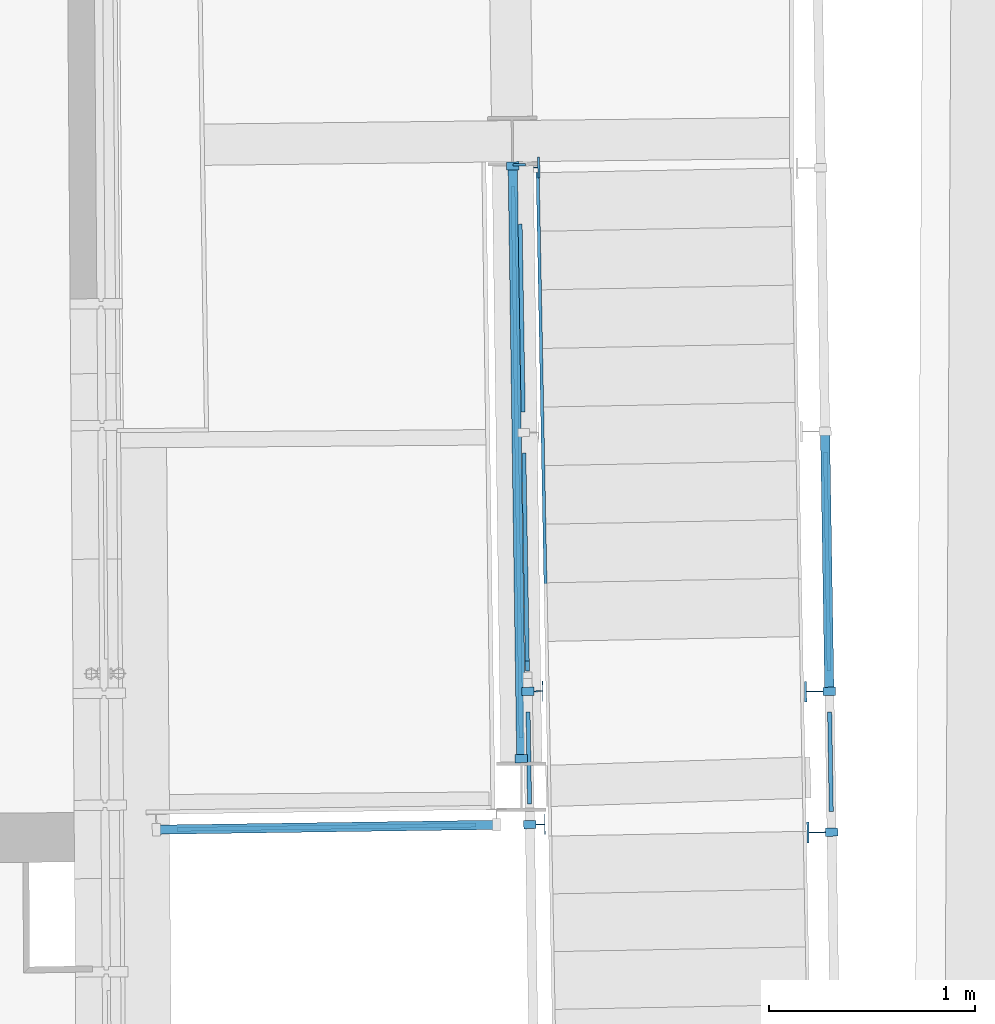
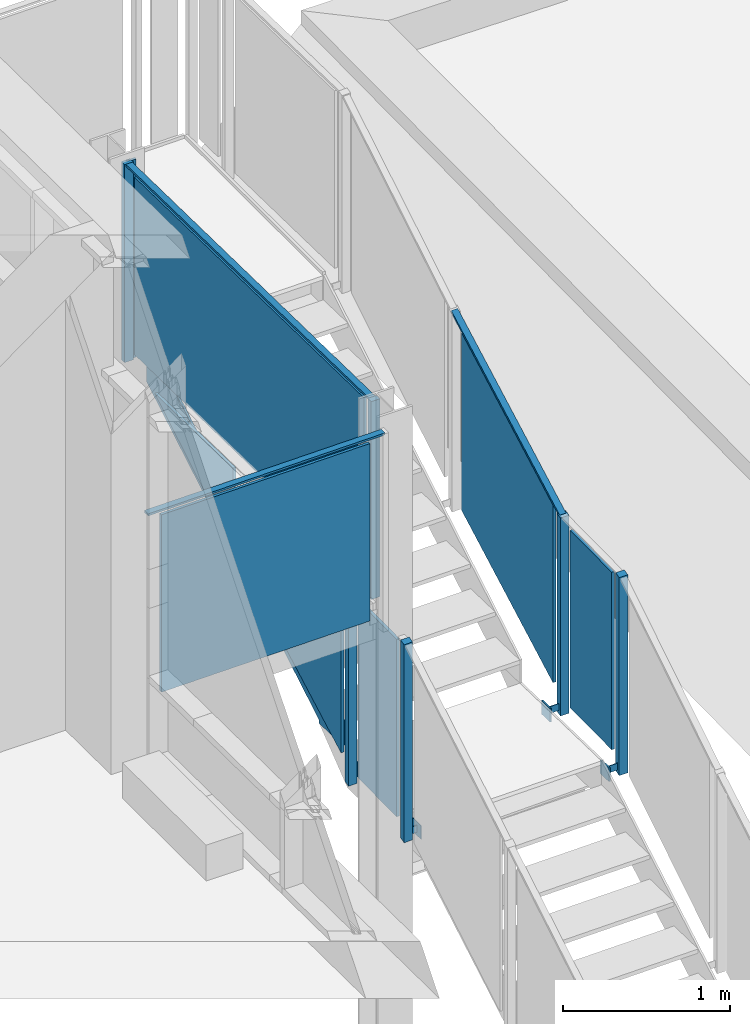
# One storey, part 108 of 158: 18 building element parts, 5 elements without a shape of their own.
"""IFC2X3 building model written with IfcOpenShell, lengths in metres."""

from ifc_helpers import new_model, entity, si_unit, converted_unit, derived_unit, money_unit, direction, frame, origin_with_axes, place, context, subcontext, project, spatial, faceted_brep, material, type_object, element, aggregate, save


model = new_model("IFC2X3")

# Units and contexts
model_context = context("Model", 3, precision=1e-05, world=origin_with_axes(), true_north=direction((0.0, 1.0)))
body_context = subcontext(model_context, "Body", "Model", "MODEL_VIEW")
ifc_project = project(units=[si_unit("LENGTHUNIT", "METRE"), si_unit("AREAUNIT", "SQUARE_METRE"), si_unit("VOLUMEUNIT", "CUBIC_METRE"), converted_unit("PLANEANGLEUNIT", "DEGREE", entity("IfcPlaneAngleMeasure", 0.0174532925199), si_unit("PLANEANGLEUNIT", "RADIAN"), dimensions=[0, 0, 0, 0, 0, 0, 0]), money_unit("EUR"), converted_unit("TIMEUNIT", "Year", entity("IfcTimeMeasure", 31556926.0), si_unit("TIMEUNIT", "SECOND"), dimensions=[0, 0, 1, 0, 0, 0, 0]), si_unit("MASSUNIT", "GRAM", prefix="KILO"), si_unit("THERMODYNAMICTEMPERATUREUNIT", "DEGREE_CELSIUS"), si_unit("LUMINOUSINTENSITYUNIT", "LUMEN"), si_unit("ENERGYUNIT", "JOULE", prefix="MEGA"), derived_unit("THERMALCONDUCTANCEUNIT", [(si_unit("POWERUNIT", "WATT"), 1), (si_unit("LENGTHUNIT", "METRE"), -1), (si_unit("THERMODYNAMICTEMPERATUREUNIT", "KELVIN"), -1)]), derived_unit("SPECIFICHEATCAPACITYUNIT", [(si_unit("ENERGYUNIT", "JOULE"), 1), (si_unit("MASSUNIT", "GRAM", prefix="KILO"), -1), (si_unit("THERMODYNAMICTEMPERATUREUNIT", "KELVIN"), -1)]), derived_unit("MASSDENSITYUNIT", [(si_unit("MASSUNIT", "GRAM", prefix="KILO"), 1), (si_unit("VOLUMEUNIT", "CUBIC_METRE"), -1)])], contexts=[model_context])

# Site, building, storey
site_placement = place(None, origin_with_axes())
site = spatial("IfcSite", under=ifc_project, at=site_placement, Name="Gelände", CompositionType="ELEMENT")
building_placement = place(site_placement, origin_with_axes())
building = spatial("IfcBuilding", under=site, at=building_placement, Name="Gebäude", CompositionType="ELEMENT")
storey_placement = place(building_placement, origin_with_axes())
storey = spatial("IfcBuildingStorey", under=building, at=storey_placement, Name="ERDGESCHOSS", CompositionType="ELEMENT", Elevation=0.0)

# Proxy, building element parts
building_element_proxy_type = type_object("IfcBuildingElementProxyType", Name="Geländerart", PredefinedType="NOTDEFINED")
proxy_1_placement = place(storey_placement, frame((-13.9943810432, 42.5620318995, 1.16389833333), z_axis=(0.0, 0.0, 1.0), x_axis=(0.999944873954, -0.0104999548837, 0.0)))
proxy_1 = element("IfcBuildingElementProxy", 1, at=proxy_1_placement, inside=storey, type_object=building_element_proxy_type, Name="Geländer-001")
ifc_material = material(Name="56_Metall, Stahl verzinkt")
building_element_part_1_placement = place(proxy_1_placement, origin_with_axes())
building_element_part_1 = element("IfcBuildingElementPart", 2, at=building_element_part_1_placement, material=ifc_material, Name="56_Metall, Stahl verzinkt", context=body_context, shape_type="Brep", body=[
    faceted_brep([(0.334665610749, 0.0311560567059, 1.445), (0.334665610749, 0.0311560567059, 1.43), (-1.31540159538, -0.00974475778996, 1.43), (-1.31540159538, -0.00974475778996, 1.445), (0.335780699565, -0.0138301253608, 1.445), (0.335780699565, -0.0138301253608, 1.43), (-1.31428650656, -0.0547309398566, 1.43), (-1.31428650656, -0.0547309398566, 1.445)], [[[0, 1, 2, 3]], [[0, 4, 5, 1]], [[1, 5, 6, 2]], [[3, 2, 6, 7]], [[4, 0, 3, 7]], [[5, 4, 7, 6]]]),
])
building_element_part_2_placement = place(proxy_1_placement, origin_with_axes())
building_element_part_2 = element("IfcBuildingElementPart", 3, at=building_element_part_2_placement, material=ifc_material, Name="56_Metall, Stahl verzinkt", context=body_context, shape_type="Brep", body=[
    faceted_brep([(-1.21462695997, -0.0397568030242, 0.1), (0.23550165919, -0.00381193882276, 0.1), (0.23550165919, -0.00381193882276, 1.395), (-1.21462695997, -0.0397568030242, 1.395), (0.215507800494, -0.00430753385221, 1.375), (0.215507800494, -0.00430753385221, 0.12), (-1.19463310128, -0.0392612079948, 0.12), (-1.19463310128, -0.0392612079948, 1.375), (0.235006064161, 0.0161819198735, 0.1), (-1.215122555, -0.0197629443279, 0.1), (0.235006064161, 0.0161819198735, 1.395), (-1.215122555, -0.0197629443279, 1.395), (0.215012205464, 0.0156863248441, 0.12), (0.215012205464, 0.0156863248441, 1.375), (-1.19512869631, -0.0192673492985, 0.12), (-1.19512869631, -0.0192673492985, 1.375)], [[[0, 1, 2, 3], [4, 5, 6, 7]], [[8, 1, 0, 9]], [[10, 2, 1, 8]], [[3, 2, 10, 11]], [[0, 3, 11, 9]], [[12, 5, 4, 13]], [[14, 6, 5, 12]], [[7, 6, 14, 15]], [[4, 7, 15, 13]], [[10, 8, 9, 11], [14, 12, 13, 15]]]),
    faceted_brep([(-1.19463310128, -0.0392612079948, 0.12), (0.215507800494, -0.00430753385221, 0.12), (0.215507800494, -0.00430753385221, 1.375), (-1.19463310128, -0.0392612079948, 1.375), (0.215012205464, 0.0156863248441, 0.12), (-1.19512869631, -0.0192673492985, 0.12), (0.215012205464, 0.0156863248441, 1.375), (-1.19512869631, -0.0192673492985, 1.375)], [[[0, 1, 2, 3]], [[4, 1, 0, 5]], [[6, 2, 1, 4]], [[3, 2, 6, 7]], [[0, 3, 7, 5]], [[6, 4, 5, 7]]]),
])
aggregate(proxy_1, [building_element_part_1, building_element_part_2])

proxy_2_placement = place(storey_placement, frame((-13.4431717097, 39.2328276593, -2.51797066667), z_axis=(0.0, 0.0, 1.0), x_axis=(1.0, 0.0, 0.0)))
proxy_2 = element("IfcBuildingElementProxy", 4, at=proxy_2_placement, inside=storey, type_object=building_element_proxy_type, Name="Geländer-001")
building_element_part_3_placement = place(proxy_2_placement, origin_with_axes())
building_element_part_3 = element("IfcBuildingElementPart", 5, at=building_element_part_3_placement, material=ifc_material, Name="56_Metall, Stahl verzinkt", context=body_context, shape_type="Brep", body=[
    faceted_brep([(-0.0241334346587, 3.33854275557, 2.11748435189), (-0.0241334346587, 3.33854275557, 2.16748435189), (0.0168611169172, 3.33921114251, 2.16748435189), (0.0168611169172, 3.33921114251, 2.11748435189), (-0.024051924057, 3.33354342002, 2.16748435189), (-0.024051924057, 3.33354342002, 2.11748435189), (0.0169426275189, 3.33421180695, 2.16748435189), (0.0169426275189, 3.33421180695, 2.11748435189)], [[[0, 1, 2, 3]], [[4, 1, 0, 5]], [[1, 4, 6, 2]], [[3, 2, 6, 7]], [[5, 0, 3, 7]], [[4, 5, 7, 6]]]),
    faceted_brep([(0.0190863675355, 3.38675373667, 2.19248435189), (0.0160867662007, 3.38670483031, 2.19248435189), (0.0177169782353, 3.28671811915, 2.19248435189), (0.0207165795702, 3.28676702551, 2.19248435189), (0.0190863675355, 3.38675373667, 2.09248435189), (0.0160867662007, 3.38670483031, 2.09248435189), (0.0177169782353, 3.28671811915, 2.09248435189), (0.0207165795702, 3.28676702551, 2.09248435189)], [[[0, 1, 2, 3]], [[4, 5, 1, 0]], [[1, 5, 6, 2]], [[3, 2, 6, 7]], [[0, 3, 7, 4]], [[7, 6, 5, 4]]]),
    faceted_brep([(-0.0244187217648, 3.35604043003, 2.0986667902), (-0.0844107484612, 3.35506230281, 2.0986667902), (-0.0844107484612, 3.35506230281, 3.5436667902), (-0.0244187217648, 3.35604043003, 3.5436667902), (-0.0237666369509, 3.31604574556, 2.08630191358), (-0.0837586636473, 3.31506761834, 2.08630191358), (-0.0837586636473, 3.31506761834, 3.53130191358), (-0.0237666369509, 3.31604574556, 3.53130191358)], [[[0, 1, 2, 3]], [[0, 4, 5, 1]], [[1, 5, 6, 2]], [[3, 2, 6, 7]], [[4, 0, 3, 7]], [[5, 4, 7, 6]]]),
])
building_element_part_4_placement = place(proxy_2_placement, origin_with_axes())
building_element_part_4 = element("IfcBuildingElementPart", 6, at=building_element_part_4_placement, material=ifc_material, Name="56_Metall, Stahl verzinkt", context=body_context, shape_type="Brep", body=[
    faceted_brep([(-0.0346683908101, 3.98468914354, 2.141343), (-0.0346683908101, 3.98468914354, 2.191343), (0.00632616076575, 3.98535753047, 2.191343), (0.00632616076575, 3.98535753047, 2.141343), (-0.0345868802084, 3.97968980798, 2.191343), (-0.0345868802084, 3.97968980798, 2.141343), (0.00640767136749, 3.98035819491, 2.191343), (0.00640767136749, 3.98035819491, 2.141343)], [[[0, 1, 2, 3]], [[4, 1, 0, 5]], [[1, 4, 6, 2]], [[3, 2, 6, 7]], [[5, 0, 3, 7]], [[4, 5, 7, 6]]]),
    faceted_brep([(0.00855141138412, 4.03290012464, 2.216343), (0.0055518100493, 4.03285121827, 2.216343), (0.00718202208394, 3.93286450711, 2.216343), (0.0101816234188, 3.93291341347, 2.216343), (0.00855141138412, 4.03290012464, 2.116343), (0.0055518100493, 4.03285121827, 2.116343), (0.00718202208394, 3.93286450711, 2.116343), (0.0101816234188, 3.93291341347, 2.116343)], [[[0, 1, 2, 3]], [[4, 5, 1, 0]], [[1, 5, 6, 2]], [[3, 2, 6, 7]], [[0, 3, 7, 4]], [[7, 6, 5, 4]]]),
    faceted_brep([(-0.0349536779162, 4.00218681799, 2.12217416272), (-0.0949457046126, 4.00120869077, 2.12217416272), (-0.0949457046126, 4.00120869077, 3.56717416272), (-0.0349536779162, 4.00218681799, 3.56717416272), (-0.0343015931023, 3.96219213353, 2.11051183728), (-0.0942936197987, 3.96121400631, 2.11051183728), (-0.0942936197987, 3.96121400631, 3.55551183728), (-0.0343015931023, 3.96219213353, 3.55551183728)], [[[0, 1, 2, 3]], [[0, 4, 5, 1]], [[1, 5, 6, 2]], [[3, 2, 6, 7]], [[4, 0, 3, 7]], [[5, 4, 7, 6]]]),
])
building_element_part_5_placement = place(proxy_2_placement, origin_with_axes())
building_element_part_5 = element("IfcBuildingElementPart", 7, at=building_element_part_5_placement, material=ifc_material, Name="56_Metall, Stahl verzinkt", context=body_context, shape_type="Brep", body=[
    faceted_brep([(-0.136366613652, 6.54170059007, 5.13119254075), (-0.136191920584, 6.53098604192, 5.12435063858), (-0.0761980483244, 6.53185097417, 5.12427835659), (-0.0763745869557, 6.54267871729, 5.13119254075), (-0.136366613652, 6.54170059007, 3.68619254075), (-0.136191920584, 6.53098604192, 3.67935063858), (-0.0761980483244, 6.53185097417, 3.67927835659), (-0.0763745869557, 6.54267871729, 3.68619254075)], [[[0, 1, 2, 3]], [[4, 5, 1, 0]], [[5, 6, 2, 1]], [[3, 2, 6, 7]], [[0, 3, 7, 4]], [[7, 6, 5, 4]]]),
    faceted_brep([(-0.0372213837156, 6.5258147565, 3.748423), (-0.037149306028, 6.52081526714, 3.748423), (-0.0160157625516, 6.5211598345, 3.748423), (-0.0160972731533, 6.52615917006, 3.748423), (-0.037149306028, 6.52081526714, 3.698423), (-0.0372213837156, 6.5258147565, 3.698423), (-0.0160157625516, 6.5211598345, 3.698423), (-0.0160972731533, 6.52615917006, 3.698423)], [[[0, 1, 2, 3]], [[4, 1, 0, 5]], [[1, 4, 6, 2]], [[6, 7, 3, 2]], [[5, 0, 3, 7]], [[4, 5, 7, 6]]]),
    faceted_brep([(-0.00524274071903, 6.4738291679, 3.773423), (-0.00687295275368, 6.57381587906, 3.773423), (-0.0168716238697, 6.57365285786, 3.773423), (-0.0152414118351, 6.4736661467, 3.773423), (-0.00687295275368, 6.57381587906, 3.673423), (-0.00524274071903, 6.4738291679, 3.673423), (-0.0168716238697, 6.57365285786, 3.673423), (-0.0152414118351, 6.4736661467, 3.673423)], [[[0, 1, 2, 3]], [[4, 1, 0, 5]], [[1, 4, 6, 2]], [[3, 2, 6, 7]], [[5, 0, 3, 7]], [[4, 5, 7, 6]]]),
])
building_element_part_6_placement = place(proxy_2_placement, origin_with_axes())
building_element_part_6 = element("IfcBuildingElementPart", 8, at=building_element_part_6_placement, material=ifc_material, Name="56_Metall, Stahl verzinkt", context=body_context, shape_type="Brep", body=[
    faceted_brep([(-0.0729921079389, 3.88155067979, 2.21265103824), (-0.0657175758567, 3.43537771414, 2.19617631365), (-0.0657175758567, 3.43537771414, 3.49117631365), (-0.0729921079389, 3.88155067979, 3.50765103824), (-0.0660436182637, 3.45537505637, 3.47190108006), (-0.0660436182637, 3.45537505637, 2.21692833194), (-0.0726660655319, 3.86155333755, 2.23192627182), (-0.0726660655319, 3.86155333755, 3.48689901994), (-0.0457202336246, 3.43570375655, 2.19617631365), (-0.0529947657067, 3.88187672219, 2.21265103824), (-0.0457202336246, 3.43570375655, 3.49117631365), (-0.0529947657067, 3.88187672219, 3.50765103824), (-0.0460462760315, 3.45570109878, 2.21692833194), (-0.0460462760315, 3.45570109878, 3.47190108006), (-0.0526687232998, 3.86187937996, 2.23192627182), (-0.0526687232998, 3.86187937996, 3.48689901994)], [[[0, 1, 2, 3], [4, 5, 6, 7]], [[8, 1, 0, 9]], [[10, 2, 1, 8]], [[3, 2, 10, 11]], [[0, 3, 11, 9]], [[12, 5, 4, 13]], [[14, 6, 5, 12]], [[7, 6, 14, 15]], [[4, 7, 15, 13]], [[10, 8, 9, 11], [14, 12, 13, 15]]]),
    faceted_brep([(-0.0726660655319, 3.86155333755, 2.23192627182), (-0.0660436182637, 3.45537505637, 2.21692833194), (-0.0660436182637, 3.45537505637, 3.47190108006), (-0.0726660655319, 3.86155333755, 3.48689901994), (-0.0460462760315, 3.45570109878, 2.21692833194), (-0.0526687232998, 3.86187937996, 2.23192627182), (-0.0460462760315, 3.45570109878, 3.47190108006), (-0.0526687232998, 3.86187937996, 3.48689901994)], [[[0, 1, 2, 3]], [[4, 1, 0, 5]], [[6, 2, 1, 4]], [[3, 2, 6, 7]], [[0, 3, 7, 5]], [[6, 4, 5, 7]]]),
])
building_element_part_7_placement = place(proxy_2_placement, origin_with_axes())
building_element_part_7 = element("IfcBuildingElementPart", 9, at=building_element_part_7_placement, material=ifc_material, Name="56_Metall, Stahl verzinkt", context=body_context, shape_type="Brep", body=[
    faceted_brep([(-0.0576921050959, 4.16998127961, 3.59851503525), (-0.0570476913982, 4.13045709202, 3.59851503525), (-0.056255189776, 4.08185014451, 3.56999991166), (-0.056255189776, 4.08185014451, 2.27499991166), (-0.073465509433, 5.13742035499, 2.89424708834), (-0.073465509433, 5.13742035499, 3.59851503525), (-0.0731394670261, 5.11742301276, 3.59851503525), (-0.0731394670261, 5.11742301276, 2.90570245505), (-0.0565812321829, 4.10184748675, 2.30991804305), (-0.0565812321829, 4.10184748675, 3.55854454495), (-0.0770450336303, 4.13013104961, 3.59851503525), (-0.0776894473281, 4.1696552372, 3.59851503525), (-0.0762525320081, 4.08152410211, 3.56999991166), (-0.0762525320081, 4.08152410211, 2.27499991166), (-0.0934628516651, 5.13709431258, 2.89424708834), (-0.0934628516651, 5.13709431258, 3.59851503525), (-0.0931368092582, 5.11709697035, 3.59851503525), (-0.0931368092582, 5.11709697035, 2.90570245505), (-0.0765785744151, 4.10152144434, 2.30991804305), (-0.0765785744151, 4.10152144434, 3.55854454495)], [[[0, 1, 2, 3, 4, 5, 6, 7, 8, 9]], [[10, 1, 0, 11]], [[1, 10, 12, 2]], [[3, 2, 12, 13]], [[4, 3, 13, 14]], [[15, 5, 4, 14]], [[16, 6, 5, 15]], [[6, 16, 17, 7]], [[8, 7, 17, 18]], [[9, 8, 18, 19]], [[11, 0, 9, 19]], [[10, 11, 19, 18, 17, 16, 15, 14, 13, 12]]]),
    faceted_brep([(-0.0731394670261, 5.11742301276, 3.59851503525), (-0.0576921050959, 4.16998127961, 3.59851503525), (-0.0565812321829, 4.10184748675, 3.55854454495), (-0.0565812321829, 4.10184748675, 2.30991804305), (-0.0731394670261, 5.11742301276, 2.90570245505), (-0.0776894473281, 4.1696552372, 3.59851503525), (-0.0931368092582, 5.11709697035, 3.59851503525), (-0.0765785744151, 4.10152144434, 3.55854454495), (-0.0765785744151, 4.10152144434, 2.30991804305), (-0.0931368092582, 5.11709697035, 2.90570245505)], [[[0, 1, 2, 3, 4]], [[5, 1, 0, 6]], [[1, 5, 7, 2]], [[3, 2, 7, 8]], [[4, 3, 8, 9]], [[6, 0, 4, 9]], [[5, 6, 9, 8, 7]]]),
])
building_element_part_8_placement = place(proxy_2_placement, origin_with_axes())
building_element_part_8 = element("IfcBuildingElementPart", 10, at=building_element_part_8_placement, material=ifc_material, Name="56_Metall, Stahl verzinkt", context=body_context, shape_type="Brep", body=[
    faceted_brep([(-0.0770519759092, 5.35739111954, 3.59851503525), (-0.0767259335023, 5.33739377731, 3.59851503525), (-0.0767259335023, 5.33739377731, 3.01675170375), (-0.0915799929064, 6.2484461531, 3.59851503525), (-0.090974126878, 6.21128623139, 3.59851503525), (-0.0770519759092, 5.35739111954, 3.05325015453), (-0.0967232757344, 5.3370677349, 3.59851503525), (-0.0970493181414, 5.35706507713, 3.59851503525), (-0.0967232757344, 5.3370677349, 3.01675170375), (-0.111577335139, 6.24812011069, 3.59851503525), (-0.11097146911, 6.21096018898, 3.59851503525), (-0.0970493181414, 5.35706507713, 3.05325015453)], [[[0, 1, 2, 3, 4, 5]], [[6, 1, 0, 7]], [[1, 6, 8, 2]], [[9, 3, 2, 8]], [[10, 4, 3, 9]], [[4, 10, 11, 5]], [[7, 0, 5, 11]], [[6, 7, 11, 10, 9, 8]]]),
    faceted_brep([(-0.090974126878, 6.21128623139, 3.59851503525), (-0.0770519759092, 5.35739111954, 3.59851503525), (-0.0770519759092, 5.35739111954, 3.05325015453), (-0.0970493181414, 5.35706507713, 3.59851503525), (-0.11097146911, 6.21096018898, 3.59851503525), (-0.0970493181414, 5.35706507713, 3.05325015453)], [[[0, 1, 2]], [[3, 1, 0, 4]], [[1, 3, 5, 2]], [[4, 0, 2, 5]], [[3, 4, 5]]]),
])
aggregate(proxy_2, [building_element_part_3, building_element_part_4, building_element_part_5, building_element_part_6, building_element_part_7, building_element_part_8])

proxy_3_placement = place(storey_placement, frame((-12.121386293, 39.1724071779, -2.51797066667), z_axis=(0.0, 0.0, 1.0), x_axis=(1.0, 0.0, 0.0)))
proxy_3 = element("IfcBuildingElementProxy", 11, at=proxy_3_placement, inside=storey, type_object=building_element_proxy_type, Name="Geländer-001")
building_element_part_9_placement = place(proxy_3_placement, origin_with_axes())
building_element_part_9 = element("IfcBuildingElementPart", 12, at=building_element_part_9_placement, material=ifc_material, Name="56_Metall, Stahl verzinkt", context=body_context, shape_type="Brep", body=[
    faceted_brep([(0.058035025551, 3.35624967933, 2.16748435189), (0.0579535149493, 3.36124901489, 2.16748435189), (-0.0220358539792, 3.35994484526, 2.16748435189), (-0.0219543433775, 3.3549455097, 2.16748435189), (0.0579535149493, 3.36124901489, 2.11748435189), (0.058035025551, 3.35624967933, 2.11748435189), (-0.0220358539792, 3.35994484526, 2.11748435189), (-0.0219543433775, 3.3549455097, 2.11748435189)], [[[0, 1, 2, 3]], [[4, 1, 0, 5]], [[1, 4, 6, 2]], [[7, 3, 2, 6]], [[5, 0, 3, 7]], [[4, 5, 7, 6]]]),
    faceted_brep([(-0.0311786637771, 3.3072888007, 2.19248435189), (-0.021179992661, 3.3074518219, 2.19248435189), (-0.0228102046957, 3.40743853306, 2.19248435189), (-0.0328088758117, 3.40727551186, 2.19248435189), (-0.0311786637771, 3.3072888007, 2.09248435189), (-0.021179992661, 3.3074518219, 2.09248435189), (-0.0228102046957, 3.40743853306, 2.09248435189), (-0.0328088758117, 3.40727551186, 2.09248435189)], [[[0, 1, 2, 3]], [[4, 5, 1, 0]], [[1, 5, 6, 2]], [[3, 2, 6, 7]], [[0, 3, 7, 4]], [[7, 6, 5, 4]]]),
    faceted_brep([(0.11766025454, 3.37972481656, 2.09891850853), (0.0576682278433, 3.37874668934, 2.09891850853), (0.0576682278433, 3.37874668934, 3.54391850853), (0.11766025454, 3.37972481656, 3.54391850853), (0.118312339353, 3.3397301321, 2.08605019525), (0.0583203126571, 3.33875200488, 2.08605019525), (0.0583203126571, 3.33875200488, 3.53105019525), (0.118312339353, 3.3397301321, 3.53105019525)], [[[0, 1, 2, 3]], [[0, 4, 5, 1]], [[1, 5, 6, 2]], [[3, 2, 6, 7]], [[4, 0, 3, 7]], [[5, 4, 7, 6]]]),
])
building_element_part_10_placement = place(proxy_3_placement, origin_with_axes())
building_element_part_10 = element("IfcBuildingElementPart", 13, at=building_element_part_10_placement, material=ifc_material, Name="56_Metall, Stahl verzinkt", context=body_context, shape_type="Brep", body=[
    faceted_brep([(0.0468970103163, 4.03938382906, 2.191343), (0.0468154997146, 4.04438316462, 2.191343), (-0.0331738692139, 4.043078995, 2.191343), (-0.0330923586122, 4.03807965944, 2.191343), (0.0468154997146, 4.04438316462, 2.141343), (0.0468970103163, 4.03938382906, 2.141343), (-0.0331738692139, 4.043078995, 2.141343), (-0.0330923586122, 4.03807965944, 2.141343)], [[[0, 1, 2, 3]], [[4, 1, 0, 5]], [[1, 4, 6, 2]], [[7, 3, 2, 6]], [[5, 0, 3, 7]], [[4, 5, 7, 6]]]),
    faceted_brep([(-0.0423166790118, 3.99042295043, 2.216343), (-0.0323180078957, 3.99058597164, 2.216343), (-0.0339482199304, 4.0905726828, 2.216343), (-0.0439468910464, 4.09040966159, 2.216343), (-0.0423166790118, 3.99042295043, 2.116343), (-0.0323180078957, 3.99058597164, 2.116343), (-0.0339482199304, 4.0905726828, 2.116343), (-0.0439468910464, 4.09040966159, 2.116343)], [[[0, 1, 2, 3]], [[4, 5, 1, 0]], [[1, 5, 6, 2]], [[3, 2, 6, 7]], [[0, 3, 7, 4]], [[7, 6, 5, 4]]]),
    faceted_brep([(0.106522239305, 4.0628589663, 2.12212809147), (0.0465302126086, 4.06188083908, 2.12212809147), (0.0465302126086, 4.06188083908, 3.56712809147), (0.106522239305, 4.0628589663, 3.56712809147), (0.107174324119, 4.02286428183, 2.11055790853), (0.0471822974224, 4.02188615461, 2.11055790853), (0.0471822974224, 4.02188615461, 3.55555790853), (0.107174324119, 4.02286428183, 3.55555790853)], [[[0, 1, 2, 3]], [[0, 4, 5, 1]], [[1, 5, 6, 2]], [[3, 2, 6, 7]], [[4, 0, 3, 7]], [[5, 4, 7, 6]]]),
])
building_element_part_11_placement = place(proxy_3_placement, origin_with_axes())
building_element_part_11 = element("IfcBuildingElementPart", 14, at=building_element_part_11_placement, material=ifc_material, Name="56_Metall, Stahl verzinkt", context=body_context, shape_type="Brep", body=[
    faceted_brep([(0.0684838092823, 3.94222282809, 2.21285093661), (0.0763614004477, 3.45906210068, 2.19597641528), (0.0763614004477, 3.45906210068, 3.49097641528), (0.0684838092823, 3.94222282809, 3.50785093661), (0.0760353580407, 3.47905944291, 3.47166263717), (0.0760353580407, 3.47905944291, 2.21668701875), (0.0688098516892, 3.92222548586, 2.23216471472), (0.0688098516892, 3.92222548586, 3.48714033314), (0.0963587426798, 3.45938814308, 2.19597641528), (0.0884811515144, 3.9425488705, 2.21285093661), (0.0963587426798, 3.45938814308, 3.49097641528), (0.0884811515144, 3.9425488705, 3.50785093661), (0.0960327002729, 3.47938548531, 2.21668701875), (0.0960327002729, 3.47938548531, 3.47166263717), (0.0888071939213, 3.92255152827, 2.23216471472), (0.0888071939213, 3.92255152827, 3.48714033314)], [[[0, 1, 2, 3], [4, 5, 6, 7]], [[8, 1, 0, 9]], [[10, 2, 1, 8]], [[3, 2, 10, 11]], [[0, 3, 11, 9]], [[12, 5, 4, 13]], [[14, 6, 5, 12]], [[7, 6, 14, 15]], [[4, 7, 15, 13]], [[10, 8, 9, 11], [14, 12, 13, 15]]]),
    faceted_brep([(0.0688098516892, 3.92222548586, 2.23216471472), (0.0760353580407, 3.47905944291, 2.21668701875), (0.0760353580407, 3.47905944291, 3.47166263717), (0.0688098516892, 3.92222548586, 3.48714033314), (0.0960327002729, 3.47938548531, 2.21668701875), (0.0888071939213, 3.92255152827, 2.23216471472), (0.0960327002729, 3.47938548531, 3.47166263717), (0.0888071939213, 3.92255152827, 3.48714033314)], [[[0, 1, 2, 3]], [[4, 1, 0, 5]], [[6, 2, 1, 4]], [[3, 2, 6, 7]], [[0, 3, 7, 5]], [[6, 4, 5, 7]]]),
])
building_element_part_12_placement = place(proxy_3_placement, origin_with_axes())
building_element_part_12 = element("IfcBuildingElementPart", 15, at=building_element_part_12_placement, material=ifc_material, Name="56_Metall, Stahl verzinkt", context=body_context, shape_type="Brep", body=[
    faceted_brep([(0.0993492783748, 4.04273935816, 3.561343), (0.0992792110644, 4.0470368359, 3.5464839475), (0.0786447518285, 5.31262172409, 4.28510878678), (0.0787724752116, 5.30478799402, 4.297904), (0.0543552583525, 4.04200576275, 3.561343), (0.0542851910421, 4.04630324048, 3.5464839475), (0.0336507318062, 5.31188812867, 4.28510878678), (0.0337784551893, 5.30405439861, 4.297904)], [[[0, 1, 2, 3]], [[0, 4, 5, 1]], [[1, 5, 6, 2]], [[3, 2, 6, 7]], [[4, 0, 3, 7]], [[5, 4, 7, 6]]]),
])
building_element_part_13_placement = place(proxy_3_placement, origin_with_axes())
building_element_part_13 = element("IfcBuildingElementPart", 16, at=building_element_part_13_placement, material=ifc_material, Name="56_Metall, Stahl verzinkt", context=body_context, shape_type="Brep", body=[
    faceted_brep([(0.0479070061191, 5.20427146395, 2.89454942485), (0.065223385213, 4.14219625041, 2.27469757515), (0.065223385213, 4.14219625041, 3.56969757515), (0.0479070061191, 5.20427146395, 4.18954942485), (0.064897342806, 4.16219359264, 3.55821227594), (0.064897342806, 4.16219359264, 2.30952470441), (0.048233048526, 5.18427412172, 2.90603472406), (0.048233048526, 5.18427412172, 4.15472229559), (0.0852207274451, 4.14252229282, 2.27469757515), (0.0679043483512, 5.20459750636, 2.89454942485), (0.0852207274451, 4.14252229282, 3.56969757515), (0.0679043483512, 5.20459750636, 4.18954942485), (0.0848946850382, 4.16251963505, 2.30952470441), (0.0848946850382, 4.16251963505, 3.55821227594), (0.0682303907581, 5.18460016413, 2.90603472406), (0.0682303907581, 5.18460016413, 4.15472229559)], [[[0, 1, 2, 3], [4, 5, 6, 7]], [[8, 1, 0, 9]], [[10, 2, 1, 8]], [[3, 2, 10, 11]], [[0, 3, 11, 9]], [[12, 5, 4, 13]], [[14, 6, 5, 12]], [[7, 6, 14, 15]], [[4, 7, 15, 13]], [[10, 8, 9, 11], [14, 12, 13, 15]]]),
    faceted_brep([(0.048233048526, 5.18427412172, 2.90603472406), (0.064897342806, 4.16219359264, 2.30952470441), (0.064897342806, 4.16219359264, 3.55821227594), (0.048233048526, 5.18427412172, 4.15472229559), (0.0848946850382, 4.16251963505, 2.30952470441), (0.0682303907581, 5.18460016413, 2.90603472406), (0.0848946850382, 4.16251963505, 3.55821227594), (0.0682303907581, 5.18460016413, 4.15472229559)], [[[0, 1, 2, 3]], [[4, 1, 0, 5]], [[6, 2, 1, 4]], [[3, 2, 6, 7]], [[0, 3, 7, 5]], [[6, 4, 5, 7]]]),
])
aggregate(proxy_3, [building_element_part_9, building_element_part_10, building_element_part_11, building_element_part_12, building_element_part_13])

proxy_4_placement = place(storey_placement, frame((-13.5804813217, 45.7640413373, 1.16389833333), z_axis=(0.0, 0.0, 1.0), x_axis=(1.0, 0.0, 0.0)))
proxy_4 = element("IfcBuildingElementProxy", 17, at=proxy_4_placement, inside=storey, type_object=building_element_proxy_type, Name="Geländer-001")
building_element_part_14_placement = place(proxy_4_placement, origin_with_axes())
building_element_part_14 = element("IfcBuildingElementPart", 18, at=building_element_part_14_placement, material=ifc_material, Name="56_Metall, Stahl verzinkt", context=body_context, shape_type="Brep", body=[
    faceted_brep([(-0.0297085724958, -0.0204303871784, 0.0), (0.0302851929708, -0.019565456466, 0.0), (0.0302851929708, -0.019565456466, 1.445), (-0.0297085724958, -0.0204303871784, 1.445), (-0.0302851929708, 0.019565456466, 0.0), (0.0297085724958, 0.0204303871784, 0.0), (0.0297085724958, 0.0204303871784, 1.445), (-0.0302851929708, 0.019565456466, 1.445)], [[[0, 1, 2, 3]], [[0, 4, 5, 1]], [[1, 5, 6, 2]], [[3, 2, 6, 7]], [[4, 0, 3, 7]], [[5, 4, 7, 6]]]),
])
building_element_part_15_placement = place(proxy_4_placement, origin_with_axes())
building_element_part_15 = element("IfcBuildingElementPart", 19, at=building_element_part_15_placement, material=ifc_material, Name="56_Metall, Stahl verzinkt", context=body_context, shape_type="Brep", body=[
    faceted_brep([(0.0117497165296, -2.89608138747, 0.0), (0.0717434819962, -2.89521645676, 0.0), (0.0717434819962, -2.89521645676, 1.445), (0.0117497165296, -2.89608138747, 1.445), (0.0111730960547, -2.85608554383, 0.0), (0.0711668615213, -2.85522061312, 0.0), (0.0711668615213, -2.85522061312, 1.445), (0.0111730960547, -2.85608554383, 1.445)], [[[0, 1, 2, 3]], [[0, 4, 5, 1]], [[1, 5, 6, 2]], [[3, 2, 6, 7]], [[4, 0, 3, 7]], [[5, 4, 7, 6]]]),
])
building_element_part_16_placement = place(proxy_4_placement, origin_with_axes())
building_element_part_16 = element("IfcBuildingElementPart", 20, at=building_element_part_16_placement, material=ifc_material, Name="56_Metall, Stahl verzinkt", context=body_context, shape_type="Brep", body=[
    faceted_brep([(-0.02249766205, -0.000324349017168, 1.445), (-0.02249766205, -0.000324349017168, 1.43), (0.0189606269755, -2.87597534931, 1.43), (0.0189606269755, -2.87597534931, 1.445), (0.02249766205, 0.000324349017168, 1.445), (0.02249766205, 0.000324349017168, 1.43), (0.0639559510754, -2.87532665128, 1.43), (0.0639559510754, -2.87532665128, 1.445)], [[[0, 1, 2, 3]], [[0, 4, 5, 1]], [[1, 5, 6, 2]], [[3, 2, 6, 7]], [[4, 0, 3, 7]], [[5, 4, 7, 6]]]),
])
building_element_part_17_placement = place(proxy_4_placement, origin_with_axes())
building_element_part_17 = element("IfcBuildingElementPart", 21, at=building_element_part_17_placement, material=ifc_material, Name="56_Metall, Stahl verzinkt", context=body_context, shape_type="Brep", body=[
    faceted_brep([(0.0500156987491, -2.77551723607, 0.1), (0.0114405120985, -0.0998454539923, 0.1), (0.0114405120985, -0.0998454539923, 1.395), (0.0500156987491, -2.77551723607, 1.395), (0.011728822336, -0.119843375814, 1.375), (0.011728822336, -0.119843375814, 0.12), (0.0497273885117, -2.75551931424, 0.12), (0.0497273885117, -2.75551931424, 1.375), (-0.00855740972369, -0.10013376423, 0.1), (0.0300177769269, -2.7758055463, 0.1), (-0.00855740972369, -0.10013376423, 1.395), (0.0300177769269, -2.7758055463, 1.395), (-0.0082690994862, -0.120131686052, 0.12), (-0.0082690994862, -0.120131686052, 1.375), (0.0297294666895, -2.75580762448, 0.12), (0.0297294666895, -2.75580762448, 1.375)], [[[0, 1, 2, 3], [4, 5, 6, 7]], [[8, 1, 0, 9]], [[10, 2, 1, 8]], [[3, 2, 10, 11]], [[0, 3, 11, 9]], [[12, 5, 4, 13]], [[14, 6, 5, 12]], [[7, 6, 14, 15]], [[4, 7, 15, 13]], [[10, 8, 9, 11], [14, 12, 13, 15]]]),
    faceted_brep([(0.0497273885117, -2.75551931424, 0.12), (0.011728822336, -0.119843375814, 0.12), (0.011728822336, -0.119843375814, 1.375), (0.0497273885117, -2.75551931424, 1.375), (-0.0082690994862, -0.120131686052, 0.12), (0.0297294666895, -2.75580762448, 0.12), (-0.0082690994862, -0.120131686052, 1.375), (0.0297294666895, -2.75580762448, 1.375)], [[[0, 1, 2, 3]], [[4, 1, 0, 5]], [[6, 2, 1, 4]], [[3, 2, 6, 7]], [[0, 3, 7, 5]], [[6, 4, 5, 7]]]),
])
aggregate(proxy_4, [building_element_part_14, building_element_part_15, building_element_part_16, building_element_part_17])

# Stair, building element part
stair_placement = place(storey_placement, frame((-12.1891757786, 43.4802433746, -0.312386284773), z_axis=(0.0, 0.0, 1.0), x_axis=(0.999990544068, 0.00434876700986, 0.0)))
stair = element("IfcStair", 22, at=stair_placement, inside=storey, Name="Treppe-003", ShapeType="NOTDEFINED")
building_element_part_18_placement = place(stair_placement, origin_with_axes())
building_element_part_18 = element("IfcBuildingElementPart", 23, at=building_element_part_18_placement, material=ifc_material, Name="56_Metall, Stahl verzinkt", context=body_context, shape_type="Brep", body=[
    faceted_brep([(-1.25296254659, 2.25654329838, 1.29555676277), (-1.25296254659, 2.25654329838, 1.62738628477), (-1.21987087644, -0.017749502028, 0.180820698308), (-1.21987087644, -0.017749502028, 0.0), (-1.22394453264, 0.262220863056, 0.0), (-1.22394453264, 0.262220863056, 0.0270665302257), (-1.26796095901, 2.25632506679, 1.62738628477), (-1.26796095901, 2.25632506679, 1.29555676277), (-1.23486928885, -0.0179677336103, 0.180820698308), (-1.23486928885, -0.0179677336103, 0.0), (-1.23894294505, 0.262002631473, 0.0), (-1.23894294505, 0.262002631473, 0.0270665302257)], [[[0, 1, 2, 3, 4, 5]], [[6, 1, 0, 7]], [[1, 6, 8, 2]], [[3, 2, 8, 9]], [[3, 9, 10, 4]], [[10, 11, 5, 4]], [[7, 0, 5, 11]], [[6, 7, 11, 10, 9, 8]]]),
])
aggregate(stair, [building_element_part_18])

save(model, "model.ifc")
